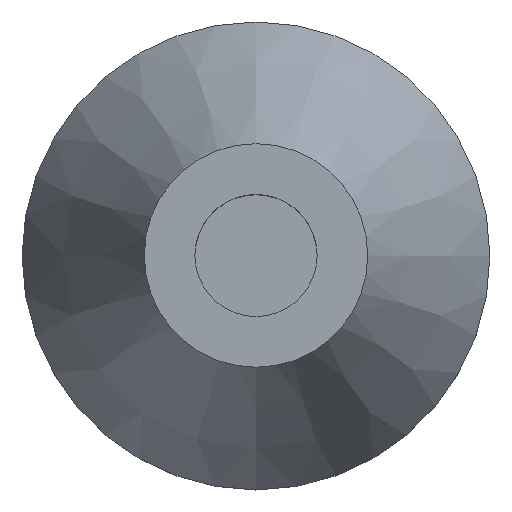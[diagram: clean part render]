
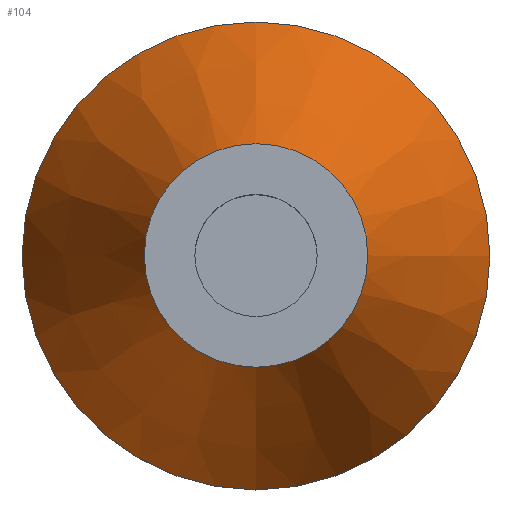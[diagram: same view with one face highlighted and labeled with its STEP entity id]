
A CAD part, top view. The second image highlights one B-rep face of the part: STEP entity #104.
In plain terms, the highlighted conical face has half-angle 24.492 degrees and reference radius 15.7 mm.
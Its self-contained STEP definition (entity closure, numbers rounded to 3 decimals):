
#21 = EDGE_CURVE('',#22,#22,#24,.T.);
#22 = VERTEX_POINT('',#23);
#23 = CARTESIAN_POINT('',(15.7,0.,11.));
#24 = SURFACE_CURVE('',#25,(#30,#42),.PCURVE_S1.);
#25 = CIRCLE('',#26,15.7);
#26 = AXIS2_PLACEMENT_3D('',#27,#28,#29);
#27 = CARTESIAN_POINT('',(0.,0.,11.));
#28 = DIRECTION('',(0.,0.,1.));
#29 = DIRECTION('',(1.,0.,0.));
#30 = PCURVE('',#31,#36);
#31 = CYLINDRICAL_SURFACE('',#32,15.7);
#32 = AXIS2_PLACEMENT_3D('',#33,#34,#35);
#33 = CARTESIAN_POINT('',(0.,0.,7.));
#34 = DIRECTION('',(0.,0.,1.));
#35 = DIRECTION('',(1.,0.,0.));
#36 = DEFINITIONAL_REPRESENTATION('',(#37),#41);
#37 = LINE('',#38,#39);
#38 = CARTESIAN_POINT('',(0.,4.));
#39 = VECTOR('',#40,1.);
#40 = DIRECTION('',(1.,0.));
#41 = ( GEOMETRIC_REPRESENTATION_CONTEXT(2) 
PARAMETRIC_REPRESENTATION_CONTEXT() REPRESENTATION_CONTEXT('2D SPACE',''
  ) );
#42 = PCURVE('',#43,#48);
#43 = CONICAL_SURFACE('',#44,15.7,0.427);
#44 = AXIS2_PLACEMENT_3D('',#45,#46,#47);
#45 = CARTESIAN_POINT('',(0.,0.,11.));
#46 = DIRECTION('',(0.,0.,-1.));
#47 = DIRECTION('',(1.,0.,0.));
#48 = DEFINITIONAL_REPRESENTATION('',(#49),#52);
#49 = B_SPLINE_CURVE_WITH_KNOTS('',1,(#50,#51),.UNSPECIFIED.,.F.,.F.,(2,
    2),(0.,6.283),.PIECEWISE_BEZIER_KNOTS.);
#50 = CARTESIAN_POINT('',(0.,0.));
#51 = CARTESIAN_POINT('',(-6.283,0.));
#52 = ( GEOMETRIC_REPRESENTATION_CONTEXT(2) 
PARAMETRIC_REPRESENTATION_CONTEXT() REPRESENTATION_CONTEXT('2D SPACE',''
  ) );
#104 = ADVANCED_FACE('',(#105),#43,.T.);
#105 = FACE_BOUND('',#106,.T.);
#106 = EDGE_LOOP('',(#107,#136,#157,#158));
#107 = ORIENTED_EDGE('',*,*,#108,.F.);
#108 = EDGE_CURVE('',#109,#109,#111,.T.);
#109 = VERTEX_POINT('',#110);
#110 = CARTESIAN_POINT('',(7.5,0.,29.));
#111 = SURFACE_CURVE('',#112,(#117,#124),.PCURVE_S1.);
#112 = CIRCLE('',#113,7.5);
#113 = AXIS2_PLACEMENT_3D('',#114,#115,#116);
#114 = CARTESIAN_POINT('',(0.,0.,29.));
#115 = DIRECTION('',(0.,0.,1.));
#116 = DIRECTION('',(1.,0.,0.));
#117 = PCURVE('',#43,#118);
#118 = DEFINITIONAL_REPRESENTATION('',(#119),#123);
#119 = LINE('',#120,#121);
#120 = CARTESIAN_POINT('',(-0.,-18.));
#121 = VECTOR('',#122,1.);
#122 = DIRECTION('',(-1.,-0.));
#123 = ( GEOMETRIC_REPRESENTATION_CONTEXT(2) 
PARAMETRIC_REPRESENTATION_CONTEXT() REPRESENTATION_CONTEXT('2D SPACE',''
  ) );
#124 = PCURVE('',#125,#130);
#125 = PLANE('',#126);
#126 = AXIS2_PLACEMENT_3D('',#127,#128,#129);
#127 = CARTESIAN_POINT('',(0.,0.,29.));
#128 = DIRECTION('',(0.,0.,1.));
#129 = DIRECTION('',(1.,0.,0.));
#130 = DEFINITIONAL_REPRESENTATION('',(#131),#135);
#131 = CIRCLE('',#132,7.5);
#132 = AXIS2_PLACEMENT_2D('',#133,#134);
#133 = CARTESIAN_POINT('',(0.,0.));
#134 = DIRECTION('',(1.,0.));
#135 = ( GEOMETRIC_REPRESENTATION_CONTEXT(2) 
PARAMETRIC_REPRESENTATION_CONTEXT() REPRESENTATION_CONTEXT('2D SPACE',''
  ) );
#136 = ORIENTED_EDGE('',*,*,#137,.F.);
#137 = EDGE_CURVE('',#22,#109,#138,.T.);
#138 = SEAM_CURVE('',#139,(#143,#150),.PCURVE_S1.);
#139 = LINE('',#140,#141);
#140 = CARTESIAN_POINT('',(15.7,0.,11.));
#141 = VECTOR('',#142,1.);
#142 = DIRECTION('',(-0.415,0.,0.91));
#143 = PCURVE('',#43,#144);
#144 = DEFINITIONAL_REPRESENTATION('',(#145),#149);
#145 = LINE('',#146,#147);
#146 = CARTESIAN_POINT('',(-6.283,0.));
#147 = VECTOR('',#148,1.);
#148 = DIRECTION('',(-0.,-1.));
#149 = ( GEOMETRIC_REPRESENTATION_CONTEXT(2) 
PARAMETRIC_REPRESENTATION_CONTEXT() REPRESENTATION_CONTEXT('2D SPACE',''
  ) );
#150 = PCURVE('',#43,#151);
#151 = DEFINITIONAL_REPRESENTATION('',(#152),#156);
#152 = LINE('',#153,#154);
#153 = CARTESIAN_POINT('',(0.,-0.));
#154 = VECTOR('',#155,1.);
#155 = DIRECTION('',(-0.,-1.));
#156 = ( GEOMETRIC_REPRESENTATION_CONTEXT(2) 
PARAMETRIC_REPRESENTATION_CONTEXT() REPRESENTATION_CONTEXT('2D SPACE',''
  ) );
#157 = ORIENTED_EDGE('',*,*,#21,.T.);
#158 = ORIENTED_EDGE('',*,*,#137,.T.);
